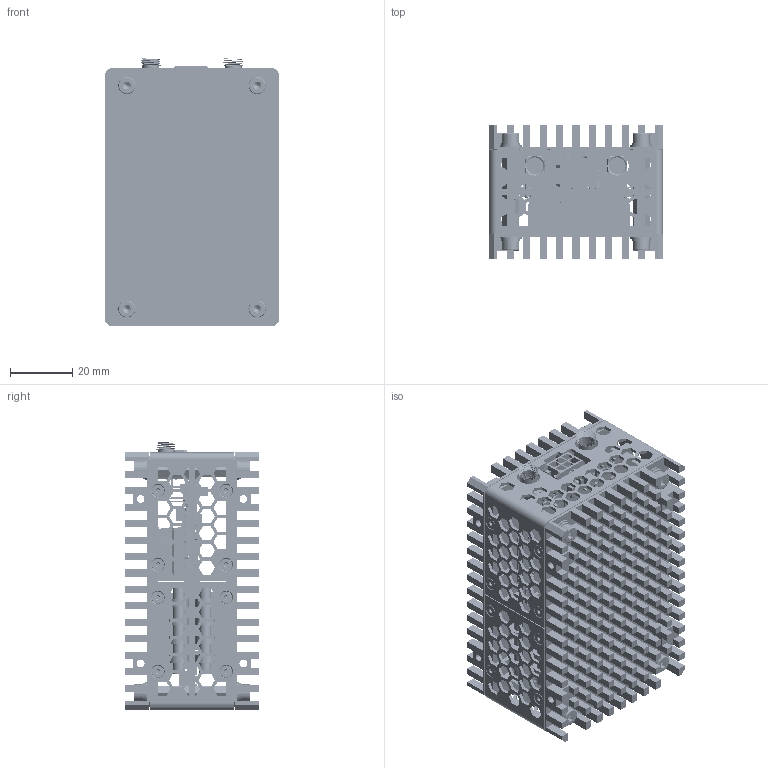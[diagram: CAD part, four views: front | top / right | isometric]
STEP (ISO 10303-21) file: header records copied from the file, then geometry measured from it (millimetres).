
FILE_DESCRIPTION (( 'STEP AP214' ), '1' );
FILE_NAME ('424.00.90.000-C01_QBY.STEP', '2024-12-25T15:41:27', ( '' ), ( '' ), 'SwSTEP 2.0', 'SolidWorks 2018', '' );
FILE_SCHEMA (( 'AUTOMOTIVE_DESIGN' ));
Length unit declared in the file: millimetre
Products named in the file (16): 栺鍣罻 PCHSN-10; 424.00.90.005-A01_Ýêðàí; 424.00.90.001-A01_冓儰僗闉; 妈眚 󉱴 DIN912 (2018); 妈眚 󉞅 ISO10642 (2018); 424.00.90.004-A01_砱瀇闇蠋鍱; 424.00.90.008-A01_Ïðîêëàäêà; 424.00.90.003-A01_Èçîëÿòîð; 424.00.90.002-A01_冓儰僗闉; 424.00.90.006-A01_Ýêðàí; 424.00.90.000-C01_QBY; ﾘ琺矜 ﾌ3 DIN127 (2018); QBY Rev.B+; ﾘ琺矜 ﾌ3 DIN125 (2018); 424.00.90.007-A01_Ïðîêëàäêà; 栺鍣罻 PCHSS-10
Assembly tree (59 placements, depth 2):
  424.00.90.000-C01_QBY
    424.00.90.001-A01_冓儰僗闉
    424.00.90.002-A01_冓儰僗闉
    424.00.90.003-A01_Èçîëÿòîð  x2
    424.00.90.004-A01_砱瀇闇蠋鍱
    424.00.90.005-A01_Ýêðàí
    424.00.90.006-A01_Ýêðàí
    424.00.90.007-A01_Ïðîêëàäêà  x2
    424.00.90.008-A01_Ïðîêëàäêà
    QBY Rev.B+
    栺鍣罻 PCHSN-10  x4
    栺鍣罻 PCHSS-10  x4
    ﾘ琺矜 ﾌ3 DIN125 (2018)  x8
    ﾘ琺矜 ﾌ3 DIN127 (2018)  x8
    妈眚 󉱴 DIN912 (2018)  x8
    妈眚 󉞅 ISO10642 (2018)  x16
Bounding box: 56 x 43.09 x 86.36 mm (x, y, z)
Volume: 66946.6 mm3; surface area: 90159.6 mm2
Topology: 58 solids, 1886 shells, 9581 faces, 31289 edges, 23753 vertices
Faces by surface type: plane 7293, cylinder 1770, cone 221, bspline 136, torus 110, sphere 51
Entity records: 368291 total; most frequent: CARTESIAN_POINT 66801, DIRECTION 47782, ORIENTED_EDGE 42036, EDGE_CURVE 28341, VECTOR 24434, LINE 24434, VERTEX_POINT 21975, AXIS2_PLACEMENT_3D 11674
